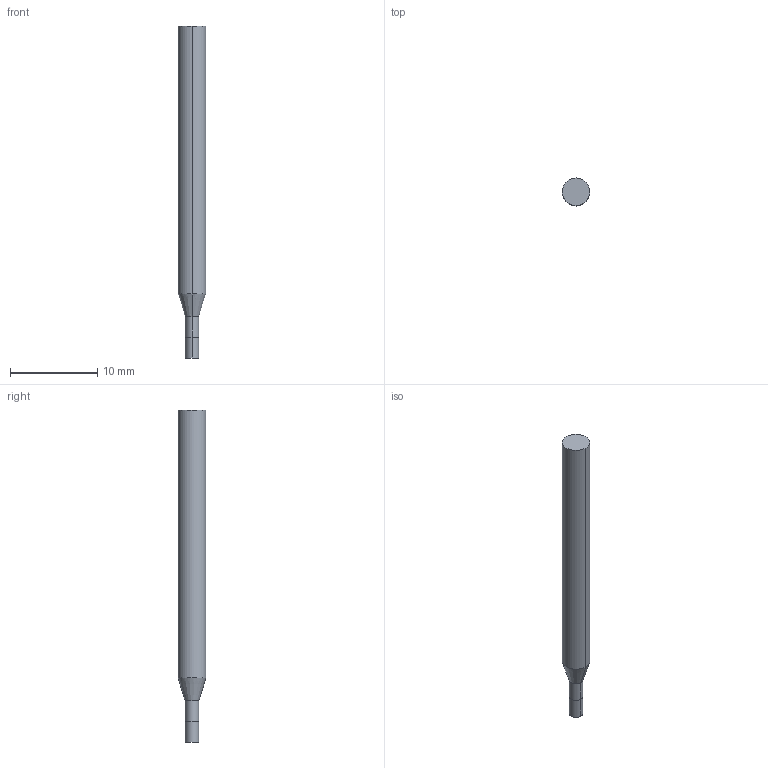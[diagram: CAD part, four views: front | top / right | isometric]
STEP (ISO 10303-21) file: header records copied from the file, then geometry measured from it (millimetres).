
FILE_DESCRIPTION((' '),'2;1');
FILE_NAME( '3MVS0625N3AH.stp', '2026-01-21T19:07:51', (' '), ('--- Datakit www.datakit.com---'), ' Datakit CrossCadWare V2025.4 Sep 19 2025', 'Mastercam 2027', ' ');
FILE_SCHEMA(('AUTOMOTIVE_DESIGN { 1 0 10303 214 1 1 1 1 }'));
Length unit declared in the file: inch
Products named in the file (1): 3MVS0625N3AH
Bounding box: 3.17 x 3.17 x 38.1 mm (x, y, z)
Volume: 264.9 mm3; surface area: 360.7 mm2
Topology: 1 solids, 1 shells, 10 faces, 18 edges, 10 vertices
Faces by surface type: cylinder 6, plane 2, cone 2
Entity records: 323 total; most frequent: DIRECTION 58, CARTESIAN_POINT 43, ORIENTED_EDGE 36, AXIS2_PLACEMENT_3D 25, EDGE_CURVE 18, VERTEX_POINT 10, CIRCLE 10, EDGE_LOOP 10
